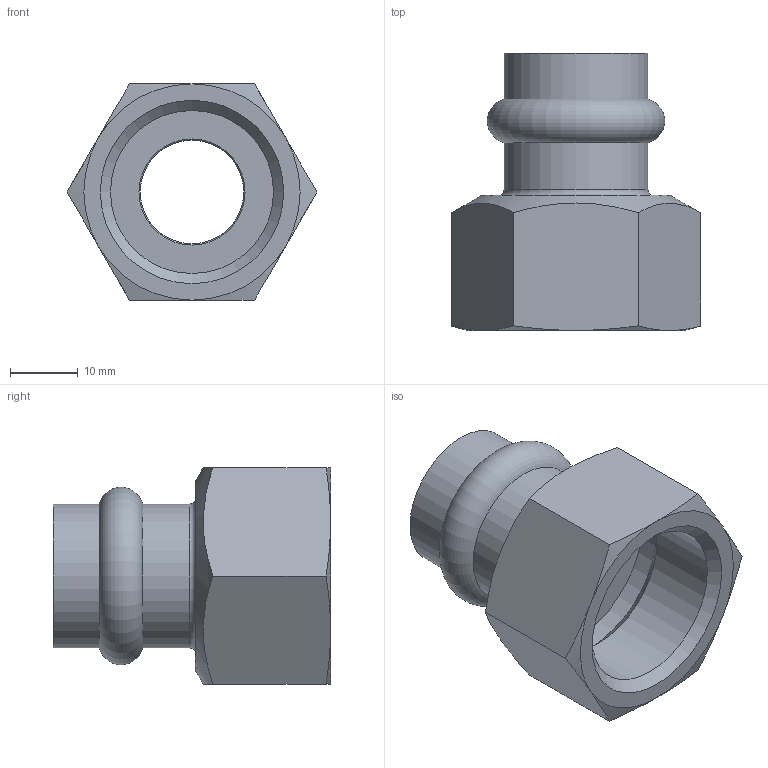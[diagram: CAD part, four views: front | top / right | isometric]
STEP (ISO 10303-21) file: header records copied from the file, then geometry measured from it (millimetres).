
FILE_DESCRIPTION(/* description */ (''),/* implementation_level */ '2;1');
FILE_NAME(/* name */ 'C:\Users\Vault\Desktop\Articoli_INOXPRES UNIKO\190_INOXPRES_UNIKO\190304018U_Inoxpres_Uniko.stp',/* time_stamp */ '2022-10-06T11:36:45+02:00',/* author */ ('Vault'),/* organization */ ('Raccorderie metalliche s.p.a. '),/* preprocessor_version */ 'ST-DEVELOPER v18.1',/* originating_system */ 'Autodesk Inventor 2020',/* authorisation */ 'Raccorderie metalliche s.p.a. ');
FILE_SCHEMA (('AUTOMOTIVE_DESIGN { 1 0 10303 214 3 1 1 }'));
Length unit declared in the file: millimetre
Products named in the file (1): 190304018V_Inoxpres_Uniko
Bounding box: 36.95 x 41 x 32 mm (x, y, z)
Volume: 11190.8 mm3; surface area: 7934.8 mm2
Topology: 1 solids, 1 shells, 35 faces, 88 edges, 58 vertices
Faces by surface type: cone 13, plane 11, cylinder 7, torus 4
Full cylindrical faces by diameter (mm): 15.3 x1, 18.3 x2, 21.3 x2, 24.12 x1, 28 x1
Entity records: 1101 total; most frequent: CARTESIAN_POINT 220, DIRECTION 190, ORIENTED_EDGE 176, EDGE_CURVE 88, AXIS2_PLACEMENT_3D 85, VERTEX_POINT 58, CIRCLE 49, EDGE_LOOP 40
